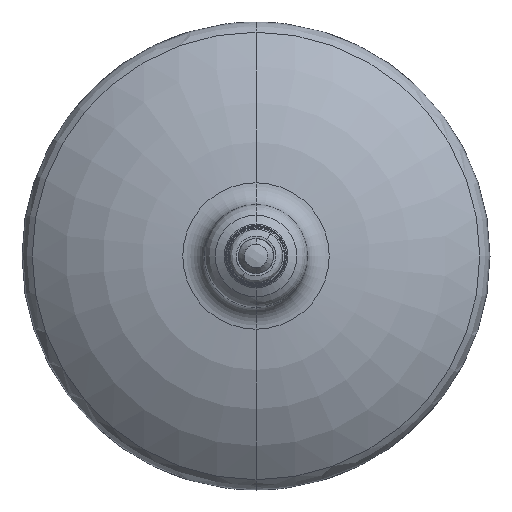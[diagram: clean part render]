
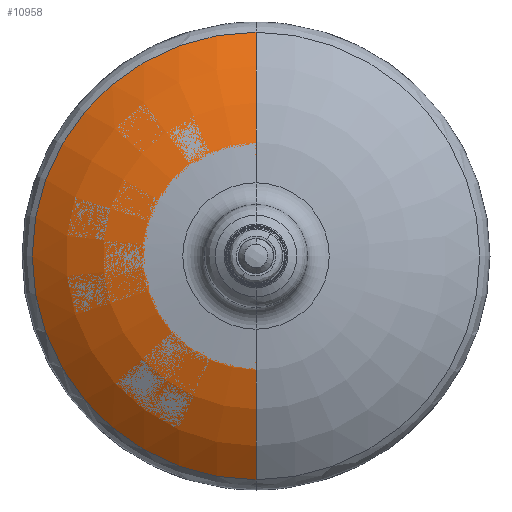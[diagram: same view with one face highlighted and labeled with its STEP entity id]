
A CAD part, front view. The second image highlights one B-rep face of the part: STEP entity #10958.
In plain terms, the highlighted toroidal (fillet/blend) face has major radius 23.071 mm and minor radius 114 mm.
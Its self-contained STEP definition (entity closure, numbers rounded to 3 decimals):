
#710 = DIRECTION ( 'NONE',  ( 0., -1., 0. ) ) ;
#1569 = TOROIDAL_SURFACE ( 'NONE', #14286, 23.071, 114. ) ;
#3252 = CARTESIAN_POINT ( 'NONE',  ( 0., 49.974, 31.28 ) ) ;
#4916 = VERTEX_POINT ( 'NONE', #12544 ) ;
#8205 = DIRECTION ( 'NONE',  ( 0., 0., -1. ) ) ;
#8635 = DIRECTION ( 'NONE',  ( 0., 0., 1. ) ) ;
#10958 = ADVANCED_FACE ( 'NONE', ( #28309 ), #1569, .T. ) ;
#11301 = CARTESIAN_POINT ( 'NONE',  ( 0., 163.678, -23.071 ) ) ;
#12544 = CARTESIAN_POINT ( 'NONE',  ( 0., 75.758, 95.639 ) ) ;
#12546 = CIRCLE ( 'NONE', #36537, 114. ) ;
#12770 = EDGE_CURVE ( 'NONE', #4916, #32112, #38321, .T. ) ;
#13913 = EDGE_LOOP ( 'NONE', ( #37070, #40412, #20691, #36454 ) ) ;
#14286 = AXIS2_PLACEMENT_3D ( 'NONE', #38500, #35636, #32312 ) ;
#14564 = CIRCLE ( 'NONE', #41369, 31.28 ) ;
#15500 = CARTESIAN_POINT ( 'NONE',  ( 0., 49.974, -31.28 ) ) ;
#17172 = VERTEX_POINT ( 'NONE', #3252 ) ;
#17614 = DIRECTION ( 'NONE',  ( 0., 0., -1. ) ) ;
#20691 = ORIENTED_EDGE ( 'NONE', *, *, #33359, .T. ) ;
#21022 = CARTESIAN_POINT ( 'NONE',  ( 0., 75.758, 0. ) ) ;
#23047 = AXIS2_PLACEMENT_3D ( 'NONE', #37947, #24450, #17614 ) ;
#23769 = DIRECTION ( 'NONE',  ( 0., 0., -1. ) ) ;
#24216 = EDGE_CURVE ( 'NONE', #4916, #17172, #27942, .T. ) ;
#24450 = DIRECTION ( 'NONE',  ( 1., 0., 0. ) ) ;
#27942 = CIRCLE ( 'NONE', #23047, 114. ) ;
#28309 = FACE_OUTER_BOUND ( 'NONE', #13913, .T. ) ;
#30615 = CARTESIAN_POINT ( 'NONE',  ( 0., 49.974, 0. ) ) ;
#30637 = EDGE_CURVE ( 'NONE', #17172, #33311, #14564, .T. ) ;
#32112 = VERTEX_POINT ( 'NONE', #34764 ) ;
#32312 = DIRECTION ( 'NONE',  ( 0., 0., -1. ) ) ;
#32686 = AXIS2_PLACEMENT_3D ( 'NONE', #21022, #710, #8205 ) ;
#33311 = VERTEX_POINT ( 'NONE', #15500 ) ;
#33359 = EDGE_CURVE ( 'NONE', #32112, #33311, #12546, .T. ) ;
#34764 = CARTESIAN_POINT ( 'NONE',  ( 0., 75.758, -95.639 ) ) ;
#35636 = DIRECTION ( 'NONE',  ( 0., -1., 0. ) ) ;
#36454 = ORIENTED_EDGE ( 'NONE', *, *, #30637, .F. ) ;
#36537 = AXIS2_PLACEMENT_3D ( 'NONE', #11301, #42226, #8635 ) ;
#37070 = ORIENTED_EDGE ( 'NONE', *, *, #24216, .F. ) ;
#37947 = CARTESIAN_POINT ( 'NONE',  ( 0., 163.678, 23.071 ) ) ;
#38321 = CIRCLE ( 'NONE', #32686, 95.639 ) ;
#38500 = CARTESIAN_POINT ( 'NONE',  ( 0., 163.678, 0. ) ) ;
#40412 = ORIENTED_EDGE ( 'NONE', *, *, #12770, .T. ) ;
#40798 = DIRECTION ( 'NONE',  ( 0., -1., 0. ) ) ;
#41369 = AXIS2_PLACEMENT_3D ( 'NONE', #30615, #40798, #23769 ) ;
#42226 = DIRECTION ( 'NONE',  ( -1., 0., 0. ) ) ;
